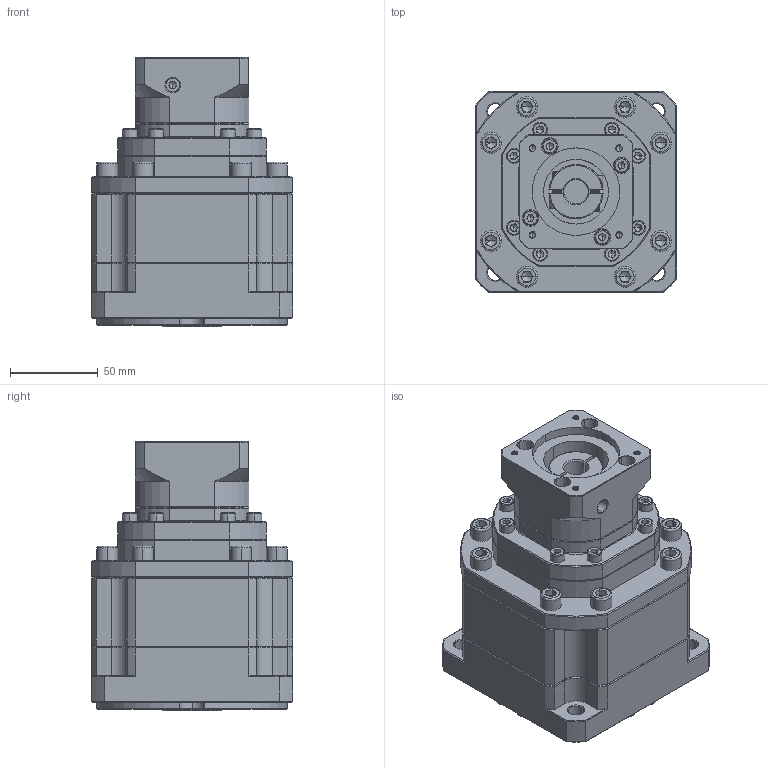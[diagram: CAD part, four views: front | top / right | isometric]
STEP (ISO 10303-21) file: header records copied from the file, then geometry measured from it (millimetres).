
FILE_DESCRIPTION (( 'STEP AP214' ), '1' );
FILE_NAME ('ZB115A-K25-L3-P2-14-50-70-M4.step', '2023-08-26T10:34:29', ( '' ), ( '' ), 'SwSTEP 2.0', 'SolidWorks 2016', '' );
FILE_SCHEMA (( 'AUTOMOTIVE_DESIGN' ));
Length unit declared in the file: millimetre
Products named in the file (1): ZB115A-K25-L3-P2-14-50-70-M4
Bounding box: 115 x 115 x 154 mm (x, y, z)
Volume: 1250427 mm3; surface area: 119926.4 mm2
Topology: 7 solids, 7 shells, 2492 faces, 6568 edges, 4190 vertices
Faces by surface type: plane 1299, bspline 434, cylinder 401, cone 336, torus 22
Entity records: 124697 total; most frequent: CARTESIAN_POINT 39003, ORIENTED_EDGE 13016, DIRECTION 10547, EDGE_CURVE 6508, LINE 4203, VECTOR 4203, VERTEX_POINT 4190, AXIS2_PLACEMENT_3D 3172
